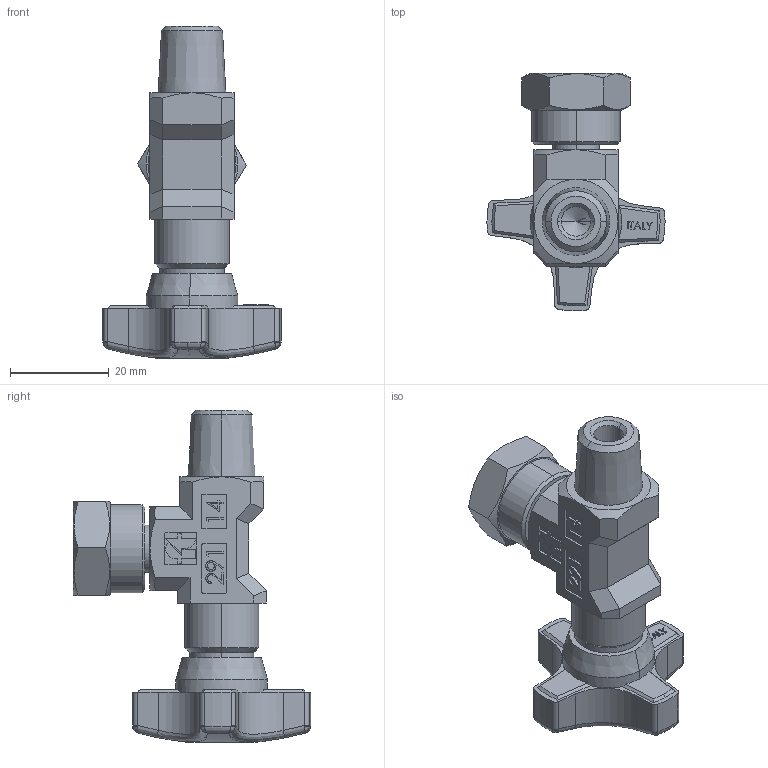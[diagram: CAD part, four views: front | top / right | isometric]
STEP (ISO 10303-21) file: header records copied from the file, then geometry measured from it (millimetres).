
FILE_DESCRIPTION (( 'STEP AP203' ), '1' );
FILE_NAME ('FT291-14.STEP', '2006-12-29T14:25:32', ( ' ' ), ( '' ), 'SwSTEP 2.0', 'SolidWorks 2006104', '' );
FILE_SCHEMA (( 'CONFIG_CONTROL_DESIGN' ));
Length unit declared in the file: millimetre
Products named in the file (5): DadoFT291-14; VolantinoFT291-14; FT291-14; CorpoFT291-14; ViteFT291-14
Assembly tree (4 placements, depth 2):
  FT291-14
    CorpoFT291-14
    DadoFT291-14
    VolantinoFT291-14
    ViteFT291-14
Bounding box: 36 x 48 x 67.08 mm (x, y, z)
Volume: 20000.6 mm3; surface area: 9498.9 mm2
Topology: 4 solids, 4 shells, 490 faces, 1246 edges, 794 vertices
Faces by surface type: plane 303, cylinder 80, cone 51, bspline 45, torus 9, sphere 2
Entity records: 25404 total; most frequent: CARTESIAN_POINT 13331, ORIENTED_EDGE 2472, DIRECTION 2250, EDGE_CURVE 1236, LINE 814, VECTOR 814, VERTEX_POINT 794, AXIS2_PLACEMENT_3D 718
